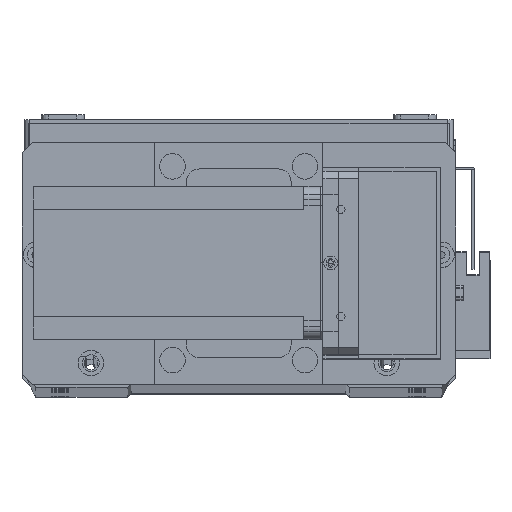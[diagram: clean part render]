
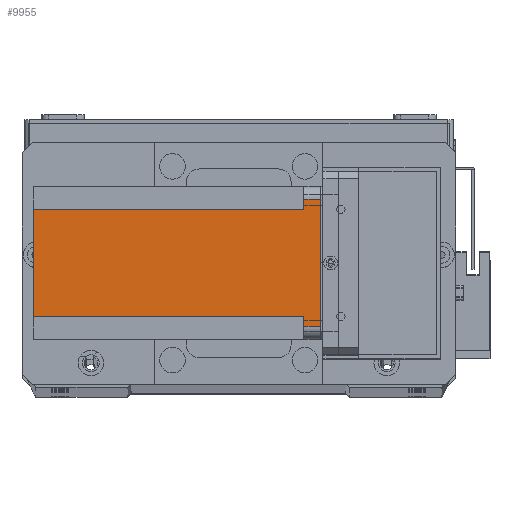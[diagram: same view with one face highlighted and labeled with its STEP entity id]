
A CAD part, top view. The second image highlights one B-rep face of the part: STEP entity #9955.
In plain terms, the highlighted planar face has unit normal (0, 0, 1) as drawn and (-1, 0, 0) by its records, which use the part's own axes.
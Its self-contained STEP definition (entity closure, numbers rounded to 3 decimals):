
#349 = VECTOR ( 'NONE', #13743, 1000. ) ;
#838 = CARTESIAN_POINT ( 'NONE',  ( 0., 5., -6.5 ) ) ;
#1486 = VERTEX_POINT ( 'NONE', #11470 ) ;
#2003 = LINE ( 'NONE', #28571, #349 ) ;
#2388 = LINE ( 'NONE', #26596, #22790 ) ;
#2426 = VECTOR ( 'NONE', #22258, 1000. ) ;
#2607 = FACE_OUTER_BOUND ( 'NONE', #4297, .T. ) ;
#2820 = LINE ( 'NONE', #25704, #21632 ) ;
#3124 = DIRECTION ( 'NONE',  ( 0., 0., 1. ) ) ;
#4297 = EDGE_LOOP ( 'NONE', ( #30743, #21558, #22508, #23910, #11386, #26071, #26171, #11122 ) ) ;
#4525 = VECTOR ( 'NONE', #22885, 1000. ) ;
#4656 = VERTEX_POINT ( 'NONE', #25629 ) ;
#5337 = DIRECTION ( 'NONE',  ( 0., -1., 0. ) ) ;
#5497 = VERTEX_POINT ( 'NONE', #8355 ) ;
#5658 = VERTEX_POINT ( 'NONE', #28665 ) ;
#5739 = LINE ( 'NONE', #6048, #31028 ) ;
#5865 = PLANE ( 'NONE',  #30116 ) ;
#5986 = CARTESIAN_POINT ( 'NONE',  ( 0., 0., -112.5 ) ) ;
#6048 = CARTESIAN_POINT ( 'NONE',  ( 0., 0., -112.5 ) ) ;
#6065 = DIRECTION ( 'NONE',  ( -1., 0., 0. ) ) ;
#6392 = DIRECTION ( 'NONE',  ( 0., 0., -1. ) ) ;
#6601 = LINE ( 'NONE', #23496, #12762 ) ;
#7447 = LINE ( 'NONE', #28448, #26720 ) ;
#8355 = CARTESIAN_POINT ( 'NONE',  ( 0., 9., -112.5 ) ) ;
#8790 = DIRECTION ( 'NONE',  ( 0., -1., 0. ) ) ;
#9955 = ADVANCED_FACE ( 'NONE', ( #2607 ), #5865, .T. ) ;
#11065 = DIRECTION ( 'NONE',  ( 0., 0., -1. ) ) ;
#11122 = ORIENTED_EDGE ( 'NONE', *, *, #26085, .F. ) ;
#11386 = ORIENTED_EDGE ( 'NONE', *, *, #25944, .F. ) ;
#11470 = CARTESIAN_POINT ( 'NONE',  ( 0., 51., -6.5 ) ) ;
#12386 = LINE ( 'NONE', #17881, #4525 ) ;
#12762 = VECTOR ( 'NONE', #3124, 1000. ) ;
#13743 = DIRECTION ( 'NONE',  ( 0., 1., 0. ) ) ;
#17030 = LINE ( 'NONE', #32223, #2426 ) ;
#17647 = VERTEX_POINT ( 'NONE', #26183 ) ;
#17881 = CARTESIAN_POINT ( 'NONE',  ( 0., 0., -6.5 ) ) ;
#18707 = VERTEX_POINT ( 'NONE', #838 ) ;
#19399 = CARTESIAN_POINT ( 'NONE',  ( 0., 55., -6.5 ) ) ;
#21558 = ORIENTED_EDGE ( 'NONE', *, *, #25890, .T. ) ;
#21632 = VECTOR ( 'NONE', #28231, 1000. ) ;
#22007 = VERTEX_POINT ( 'NONE', #19399 ) ;
#22258 = DIRECTION ( 'NONE',  ( 0., -1., 0. ) ) ;
#22508 = ORIENTED_EDGE ( 'NONE', *, *, #25599, .F. ) ;
#22790 = VECTOR ( 'NONE', #6392, 1000. ) ;
#22885 = DIRECTION ( 'NONE',  ( 0., 1., 0. ) ) ;
#23496 = CARTESIAN_POINT ( 'NONE',  ( 0., 51., -112.5 ) ) ;
#23910 = ORIENTED_EDGE ( 'NONE', *, *, #25934, .T. ) ;
#25599 = EDGE_CURVE ( 'NONE', #31936, #5658, #17030, .T. ) ;
#25629 = CARTESIAN_POINT ( 'NONE',  ( 0., 9., -6.5 ) ) ;
#25704 = CARTESIAN_POINT ( 'NONE',  ( 0., 5., -112.5 ) ) ;
#25784 = EDGE_CURVE ( 'NONE', #18707, #4656, #12386, .T. ) ;
#25890 = EDGE_CURVE ( 'NONE', #18707, #5658, #2820, .T. ) ;
#25934 = EDGE_CURVE ( 'NONE', #31936, #22007, #7447, .T. ) ;
#25944 = EDGE_CURVE ( 'NONE', #1486, #22007, #2003, .T. ) ;
#25950 = EDGE_CURVE ( 'NONE', #17647, #1486, #6601, .T. ) ;
#25998 = EDGE_CURVE ( 'NONE', #17647, #5497, #5739, .T. ) ;
#26071 = ORIENTED_EDGE ( 'NONE', *, *, #25950, .F. ) ;
#26085 = EDGE_CURVE ( 'NONE', #4656, #5497, #2388, .T. ) ;
#26171 = ORIENTED_EDGE ( 'NONE', *, *, #25998, .T. ) ;
#26183 = CARTESIAN_POINT ( 'NONE',  ( 0., 51., -112.5 ) ) ;
#26596 = CARTESIAN_POINT ( 'NONE',  ( 0., 9., -112.5 ) ) ;
#26720 = VECTOR ( 'NONE', #11065, 1000. ) ;
#28231 = DIRECTION ( 'NONE',  ( 0., 0., 1. ) ) ;
#28448 = CARTESIAN_POINT ( 'NONE',  ( 0., 55., -112.5 ) ) ;
#28571 = CARTESIAN_POINT ( 'NONE',  ( 0., 60., -6.5 ) ) ;
#28665 = CARTESIAN_POINT ( 'NONE',  ( 0., 5., 0. ) ) ;
#30116 = AXIS2_PLACEMENT_3D ( 'NONE', #5986, #6065, #5337 ) ;
#30743 = ORIENTED_EDGE ( 'NONE', *, *, #25784, .F. ) ;
#31028 = VECTOR ( 'NONE', #8790, 1000. ) ;
#31936 = VERTEX_POINT ( 'NONE', #32069 ) ;
#32069 = CARTESIAN_POINT ( 'NONE',  ( 0., 55., 0. ) ) ;
#32223 = CARTESIAN_POINT ( 'NONE',  ( 0., 0., 0. ) ) ;
